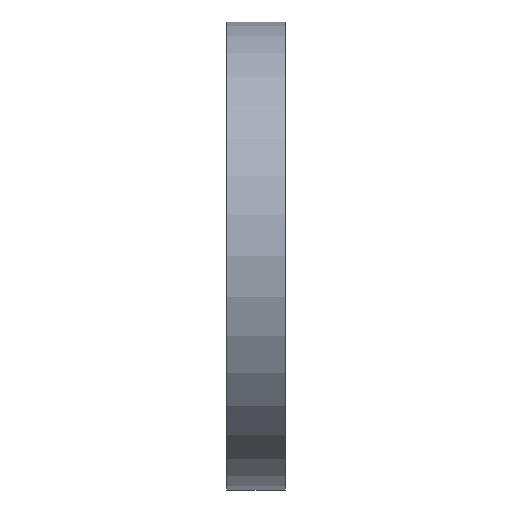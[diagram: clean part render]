
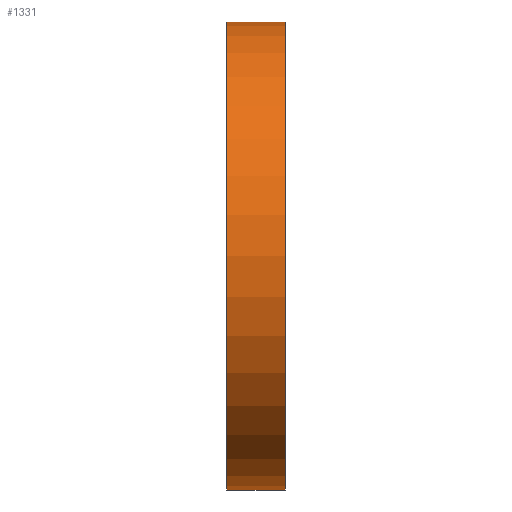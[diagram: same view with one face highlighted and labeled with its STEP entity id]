
A CAD part, left-side view. The second image highlights one B-rep face of the part: STEP entity #1331.
In plain terms, the highlighted cylindrical face has radius 12.7 mm (diameter 25.4 mm), a partial arc.
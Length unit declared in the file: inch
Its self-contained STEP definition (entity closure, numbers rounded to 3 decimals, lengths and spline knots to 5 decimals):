
#8 = CARTESIAN_POINT ( 'NONE',  ( 0., 0.125, 0. ) ) ;
#34 = AXIS2_PLACEMENT_3D ( 'NONE', #8, #7020, #2399 ) ;
#162 = AXIS2_PLACEMENT_3D ( 'NONE', #13318, #6371, #1697 ) ;
#735 = ORIENTED_EDGE ( 'NONE', *, *, #1882, .T. ) ;
#1081 = DIRECTION ( 'NONE',  ( 0., 0., -1. ) ) ;
#1331 = ADVANCED_FACE ( 'NONE', ( #13634 ), #10924, .T. ) ;
#1697 = DIRECTION ( 'NONE',  ( 0., 0., 1. ) ) ;
#1729 = DIRECTION ( 'NONE',  ( 0., -1., 0. ) ) ;
#1882 = EDGE_CURVE ( 'NONE', #7894, #6258, #12008, .T. ) ;
#2190 = LINE ( 'NONE', #13892, #5808 ) ;
#2215 = AXIS2_PLACEMENT_3D ( 'NONE', #6532, #3282, #1081 ) ;
#2399 = DIRECTION ( 'NONE',  ( 0., 0., 1. ) ) ;
#2726 = EDGE_CURVE ( 'NONE', #12101, #7894, #7629, .T. ) ;
#2784 = CARTESIAN_POINT ( 'NONE',  ( 0., 0., -0.5 ) ) ;
#3181 = ORIENTED_EDGE ( 'NONE', *, *, #2726, .T. ) ;
#3211 = ORIENTED_EDGE ( 'NONE', *, *, #7019, .F. ) ;
#3282 = DIRECTION ( 'NONE',  ( 0., -1., 0. ) ) ;
#4305 = EDGE_CURVE ( 'NONE', #12101, #14212, #15008, .T. ) ;
#5196 = ORIENTED_EDGE ( 'NONE', *, *, #4305, .F. ) ;
#5808 = VECTOR ( 'NONE', #10506, 39.37008 ) ;
#6258 = VERTEX_POINT ( 'NONE', #12611 ) ;
#6371 = DIRECTION ( 'NONE',  ( 0., 1., 0. ) ) ;
#6532 = CARTESIAN_POINT ( 'NONE',  ( 0., 0.125, 0. ) ) ;
#7019 = EDGE_CURVE ( 'NONE', #14212, #6258, #2190, .T. ) ;
#7020 = DIRECTION ( 'NONE',  ( 0., 1., 0. ) ) ;
#7258 = VECTOR ( 'NONE', #1729, 39.37008 ) ;
#7629 = LINE ( 'NONE', #13246, #7258 ) ;
#7894 = VERTEX_POINT ( 'NONE', #2784 ) ;
#10377 = CARTESIAN_POINT ( 'NONE',  ( 0., 0.125, 0.5 ) ) ;
#10506 = DIRECTION ( 'NONE',  ( 0., -1., 0. ) ) ;
#10924 = CYLINDRICAL_SURFACE ( 'NONE', #2215, 0.5 ) ;
#11005 = EDGE_LOOP ( 'NONE', ( #3211, #5196, #3181, #735 ) ) ;
#12008 = CIRCLE ( 'NONE', #162, 0.5 ) ;
#12101 = VERTEX_POINT ( 'NONE', #12716 ) ;
#12611 = CARTESIAN_POINT ( 'NONE',  ( 0., 0., 0.5 ) ) ;
#12716 = CARTESIAN_POINT ( 'NONE',  ( 0., 0.125, -0.5 ) ) ;
#13246 = CARTESIAN_POINT ( 'NONE',  ( 0., 0.125, -0.5 ) ) ;
#13318 = CARTESIAN_POINT ( 'NONE',  ( 0., 0., 0. ) ) ;
#13634 = FACE_OUTER_BOUND ( 'NONE', #11005, .T. ) ;
#13892 = CARTESIAN_POINT ( 'NONE',  ( 0., 0.125, 0.5 ) ) ;
#14212 = VERTEX_POINT ( 'NONE', #10377 ) ;
#15008 = CIRCLE ( 'NONE', #34, 0.5 ) ;
